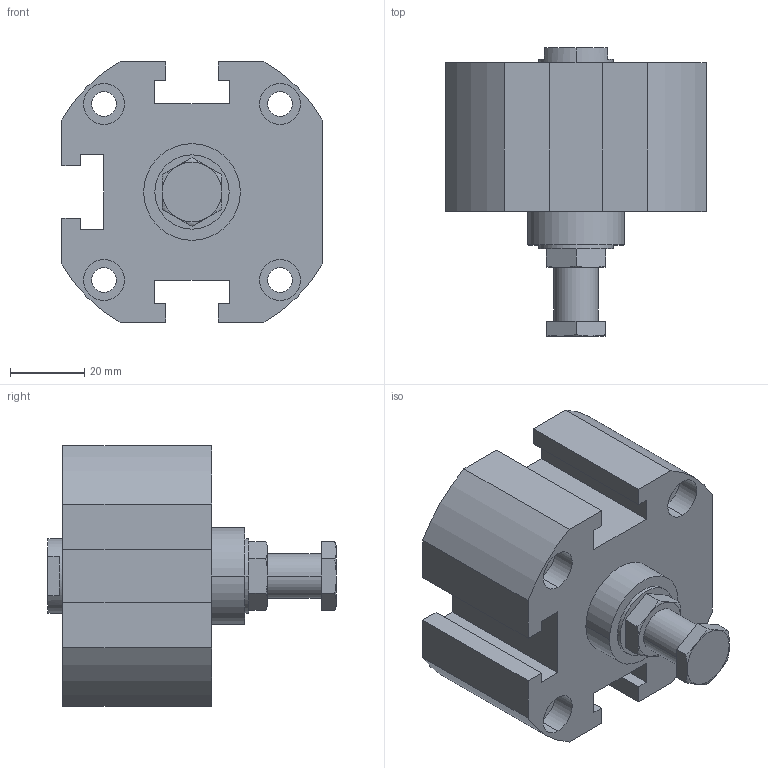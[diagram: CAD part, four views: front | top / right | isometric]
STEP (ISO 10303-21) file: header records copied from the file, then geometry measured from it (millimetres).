
FILE_DESCRIPTION (( 'STEP AP203' ), '1' );
FILE_NAME ('XCA2-50-10.STEP', '2016-05-24T02:31:32', ( '' ), ( '' ), 'SwSTEP 2.0', 'SolidWorks 2014', '' );
FILE_SCHEMA (( 'CONFIG_CONTROL_DESIGN' ));
Length unit declared in the file: millimetre
Products named in the file (3): XCA2-50-10; XC#2-50-10; X#A2-50-H
Assembly tree (2 placements, depth 2):
  XCA2-50-10
    XC#2-50-10
    X#A2-50-H
Bounding box: 70 x 77.5 x 70 mm (x, y, z)
Volume: 154584.6 mm3; surface area: 30428.2 mm2
Topology: 2 solids, 2 shells, 150 faces, 361 edges, 231 vertices
Faces by surface type: plane 68, cylinder 60, torus 12, cone 10
Entity records: 4852 total; most frequent: CARTESIAN_POINT 973, DIRECTION 785, ORIENTED_EDGE 710, EDGE_CURVE 355, AXIS2_PLACEMENT_3D 299, VERTEX_POINT 231, LINE 187, VECTOR 187
